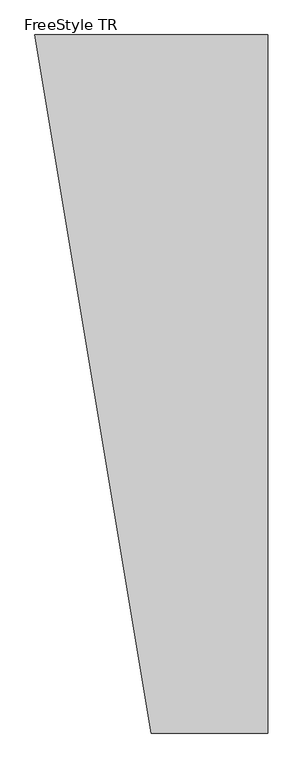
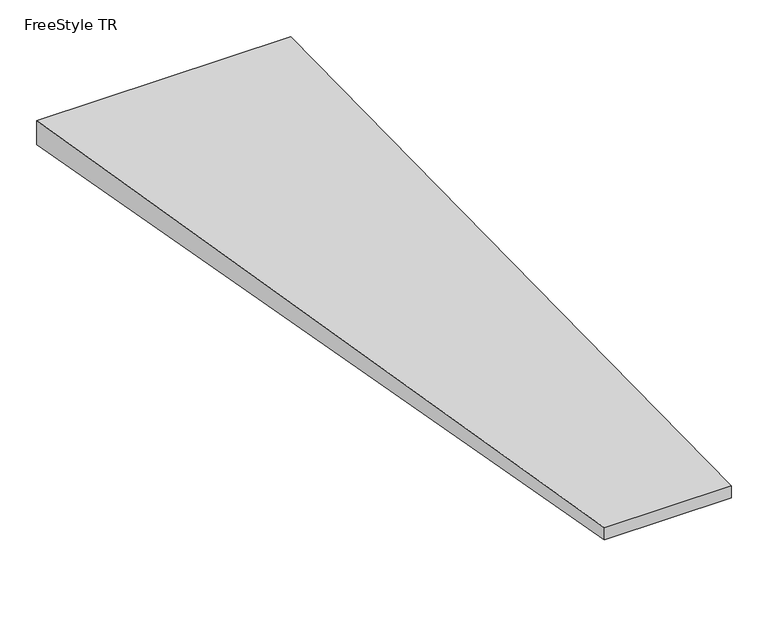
"""IFC4 building model written with IfcOpenShell, lengths in millimetres: proxy geometry, OWA FreeStyle wall absorber : FreeStyle TR."""

from ifc_helpers import new_model, si_unit, origin, place, context, project, spatial, faceted_brep, source, transform, mapped, element, save


def freestyle_tr_f36e938a(model_context):
    return source(origin(), model_context, "Body", "Brep", [
        faceted_brep([(-233.5, -600.0, 20.0), (-433.5, -600.0, 20.0), (-433.5, -600.0, 0.0), (-233.5, -600.0, 0.0), (-233.5, 600.0, 40.0), (-233.5, 600.0, 0.0), (-633.5, 600.0, 0.0), (-633.5, 600.0, 40.0)], [[[0, 1, 2, 3]], [[4, 5, 6, 7]], [[4, 7, 1, 0]], [[7, 6, 2, 1]], [[6, 5, 3, 2]], [[5, 4, 0, 3]]]),
    ])


if __name__ == "__main__":
    model = new_model("IFC4")
    model_context = context("Model", 3, world=origin())
    ifc_project = project(units=[si_unit("LENGTHUNIT", "METRE", prefix="MILLI")], contexts=[model_context])
    site = spatial("IfcSite", under=ifc_project)
    building = spatial("IfcBuilding", under=site)
    placement = place(None, origin())
    freestyle_tr_shape = freestyle_tr_f36e938a(model_context)
    element("IfcBuildingElementProxy", 1, Name="OWA FreeStyle wall absorber : FreeStyle TR", ObjectType="OWA FreeStyle wall absorber : FreeStyle TR", at=placement, inside=building, context=model_context, shape_type="MappedRepresentation", body=[
        mapped(freestyle_tr_shape, transform((0.0, 0.0, 0.0), x_axis=(1.0, 0.0, 0.0), y_axis=(0.0, 1.0, 0.0), z_axis=(0.0, 0.0, 1.0))),
    ])
    save(model, "model.ifc")
